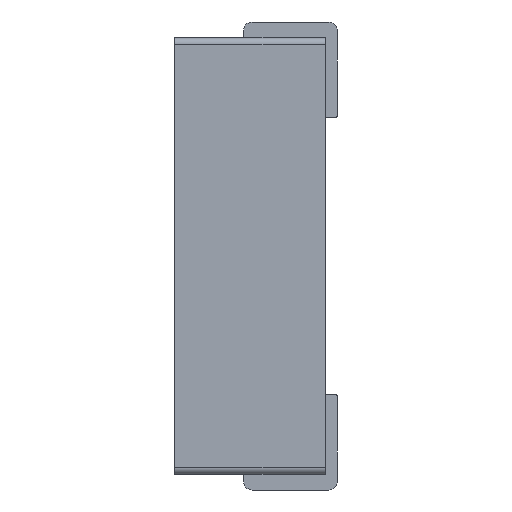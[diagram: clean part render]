
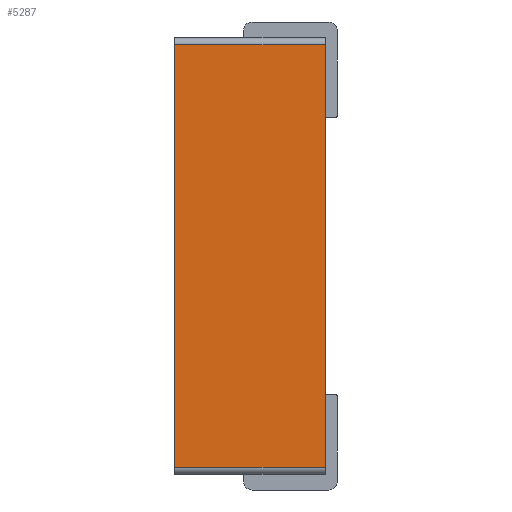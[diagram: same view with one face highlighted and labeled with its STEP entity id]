
A CAD part, left-side view. The second image highlights one B-rep face of the part: STEP entity #5287.
In plain terms, the highlighted planar face has unit normal (-1, 0, 0).
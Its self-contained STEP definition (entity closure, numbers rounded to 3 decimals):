
#147 = CARTESIAN_POINT ( 'NONE',  ( -6.3, 0., 6.1 ) ) ;
#322 = DIRECTION ( 'NONE',  ( 0., 0., 1. ) ) ;
#485 = PLANE ( 'NONE',  #3112 ) ;
#686 = VERTEX_POINT ( 'NONE', #1329 ) ;
#1005 = LINE ( 'NONE', #5014, #4507 ) ;
#1329 = CARTESIAN_POINT ( 'NONE',  ( -6.3, 0., -6.1 ) ) ;
#1509 = CARTESIAN_POINT ( 'NONE',  ( -6.3, 4.35, -6.1 ) ) ;
#1662 = CARTESIAN_POINT ( 'NONE',  ( -6.3, 4.35, 6.1 ) ) ;
#1836 = CARTESIAN_POINT ( 'NONE',  ( -6.3, 4.35, 6.1 ) ) ;
#1863 = DIRECTION ( 'NONE',  ( 1., 0., 0. ) ) ;
#1866 = LINE ( 'NONE', #2610, #5082 ) ;
#1873 = VECTOR ( 'NONE', #2112, 1000. ) ;
#1939 = DIRECTION ( 'NONE',  ( 0., 0., 1. ) ) ;
#2112 = DIRECTION ( 'NONE',  ( 0., 1., 0. ) ) ;
#2156 = VECTOR ( 'NONE', #4023, 1000. ) ;
#2226 = ORIENTED_EDGE ( 'NONE', *, *, #3818, .F. ) ;
#2497 = EDGE_CURVE ( 'NONE', #5443, #686, #4476, .T. ) ;
#2610 = CARTESIAN_POINT ( 'NONE',  ( -6.3, 4.35, -6.3 ) ) ;
#2645 = VERTEX_POINT ( 'NONE', #147 ) ;
#3032 = LINE ( 'NONE', #1662, #1873 ) ;
#3112 = AXIS2_PLACEMENT_3D ( 'NONE', #3603, #1863, #4906 ) ;
#3294 = EDGE_CURVE ( 'NONE', #2645, #5692, #3032, .T. ) ;
#3342 = ORIENTED_EDGE ( 'NONE', *, *, #2497, .T. ) ;
#3475 = ORIENTED_EDGE ( 'NONE', *, *, #3294, .T. ) ;
#3603 = CARTESIAN_POINT ( 'NONE',  ( -6.3, 4.35, -6.3 ) ) ;
#3818 = EDGE_CURVE ( 'NONE', #5443, #5692, #1866, .T. ) ;
#3881 = ORIENTED_EDGE ( 'NONE', *, *, #4920, .T. ) ;
#4023 = DIRECTION ( 'NONE',  ( 0., -1., 0. ) ) ;
#4426 = CARTESIAN_POINT ( 'NONE',  ( -6.3, 4.35, -6.1 ) ) ;
#4476 = LINE ( 'NONE', #4426, #2156 ) ;
#4507 = VECTOR ( 'NONE', #1939, 1000. ) ;
#4906 = DIRECTION ( 'NONE',  ( 0., 0., -1. ) ) ;
#4920 = EDGE_CURVE ( 'NONE', #686, #2645, #1005, .T. ) ;
#5014 = CARTESIAN_POINT ( 'NONE',  ( -6.3, 0., -6.3 ) ) ;
#5066 = FACE_OUTER_BOUND ( 'NONE', #5530, .T. ) ;
#5082 = VECTOR ( 'NONE', #322, 1000. ) ;
#5287 = ADVANCED_FACE ( 'NONE', ( #5066 ), #485, .F. ) ;
#5443 = VERTEX_POINT ( 'NONE', #1509 ) ;
#5530 = EDGE_LOOP ( 'NONE', ( #3881, #3475, #2226, #3342 ) ) ;
#5692 = VERTEX_POINT ( 'NONE', #1836 ) ;
